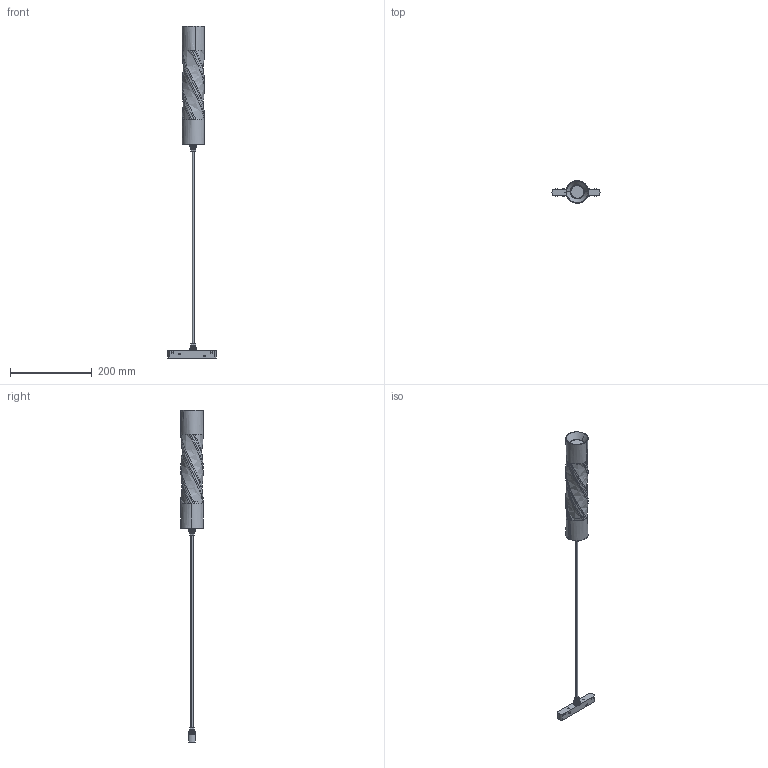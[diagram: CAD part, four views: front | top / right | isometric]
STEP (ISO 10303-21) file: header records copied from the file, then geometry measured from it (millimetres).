
FILE_DESCRIPTION(/* description */ (''),/* implementation_level */ '2;1');
FILE_NAME(/* name */ 'KL-T10~1',/* time_stamp */ '2026-07-01T12:40:51+08:00',/* author */ (''),/* organization */ (''),/* preprocessor_version */ 'ST-DEVELOPER v16.5',/* originating_system */ '',/* authorisation */ '');
FILE_SCHEMA (('CONFIG_CONTROL_DESIGN'));
Length unit declared in the file: millimetre
Products named in the file (1): Document
Bounding box: 117.93 x 55 x 814.76 mm (x, y, z)
Volume: 50737.2 mm3; surface area: 127689.3 mm2
Topology: 9 solids, 15 shells, 248 faces, 681 edges, 452 vertices
Faces by surface type: plane 183, bspline 53, cylinder 12
Entity records: 13912 total; most frequent: CARTESIAN_POINT 9303, ORIENTED_EDGE 1314, EDGE_CURVE 684, B_SPLINE_CURVE_WITH_KNOTS 648, VERTEX_POINT 452, EDGE_LOOP 255, ADVANCED_FACE 248, FACE_OUTER_BOUND 248
